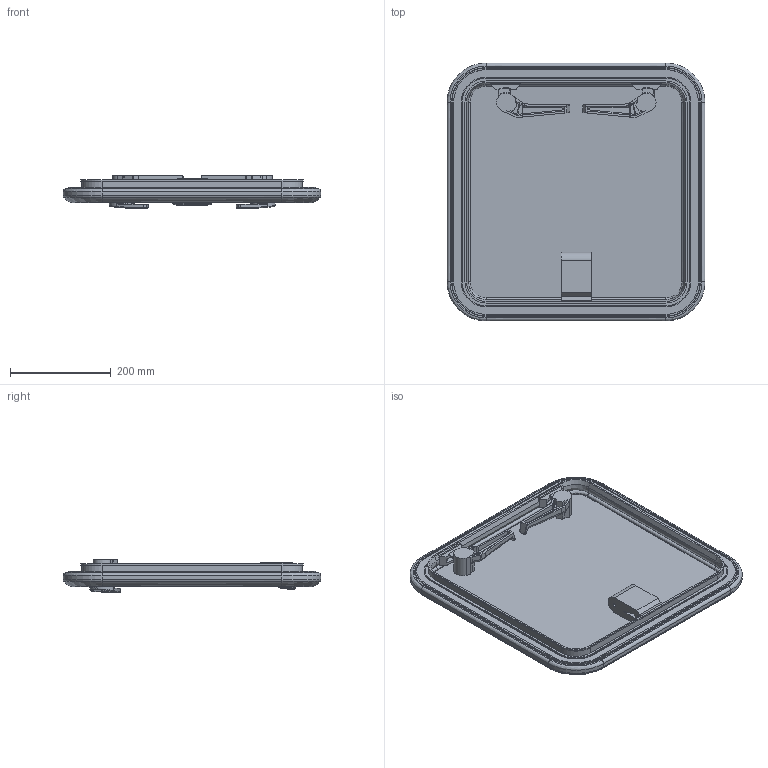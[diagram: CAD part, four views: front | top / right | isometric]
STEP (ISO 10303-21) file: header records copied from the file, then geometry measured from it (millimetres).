
FILE_DESCRIPTION((''),'2;1');
FILE_NAME('LEWMAR-HATCH-MEDPRO-44_ASM','2008-02-04T',('skennedy'),(''),'PRO/ENGINEER BY PARAMETRIC TECHNOLOGY CORPORATION, 2007030','PRO/ENGINEER BY PARAMETRIC TECHNOLOGY CORPORATION, 2007030','');
FILE_SCHEMA(('CONFIG_CONTROL_DESIGN'));
Length unit declared in the file: millimetre
Products named in the file (6): FRAME_MP_44; 3594443X; HANDLE_LHS; HANDLE_RHS; HINGE_LEVER; LEWMAR-HATCH-MEDPRO-44_ASM
Assembly tree (5 placements, depth 2):
  LEWMAR-HATCH-MEDPRO-44_ASM
    FRAME_MP_44
    3594443X
    HANDLE_LHS
    HANDLE_RHS
    HINGE_LEVER
Bounding box: 513 x 513 x 65.24 mm (x, y, z)
Volume: 2814048.7 mm3; surface area: 918013.5 mm2
Topology: 3 solids, 5 shells, 991 faces, 2530 edges, 1562 vertices
Faces by surface type: plane 368, bspline 299, cylinder 189, torus 43, cone 37, extrusion 35, sphere 20
Entity records: 41393 total; most frequent: CARTESIAN_POINT 19701, ORIENTED_EDGE 5026, DIRECTION 3548, EDGE_CURVE 2515, VERTEX_POINT 1562, AXIS2_PLACEMENT_3D 1218, VECTOR 1112, LINE 1077
